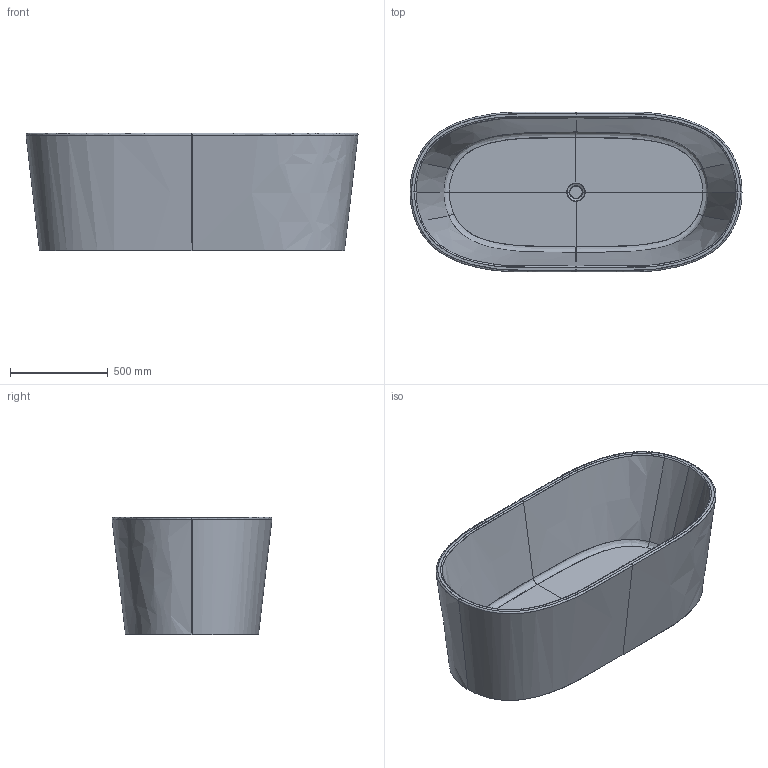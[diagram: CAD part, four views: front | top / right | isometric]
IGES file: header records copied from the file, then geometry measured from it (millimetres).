
Start section: START RECORD GO HERE.
Global section: file name: art 7239 VASCA 170x82.igs; native system: DASSAULT SYSTEMES CATIA V5 R19 - www.3ds.com; preprocessor: CATIA Version 5 Release 19 SP 5 ; author: Luca; organization: DESKTOP-V7SON24; date: 20201016.132449; units: millimetre
Bounding box: 1697.99 x 817.99 x 600 mm (x, y, z)
Surface area: 6003768.2 mm2 (no closed solid volume)
Topology: 0 solids, 0 shells, 52 faces, 216 edges, 216 vertices
Faces by surface type: bspline 40, plane 10, revolution 2
